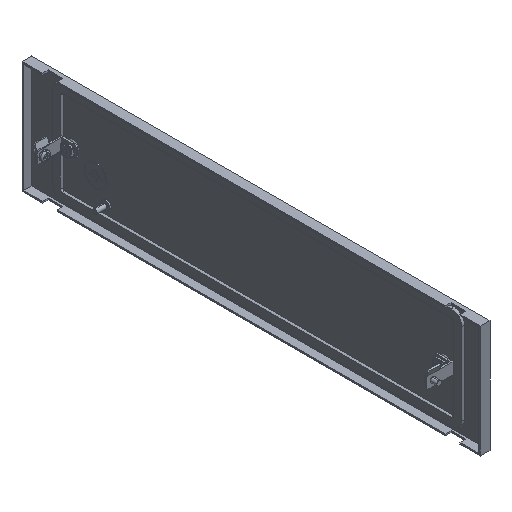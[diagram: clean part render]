
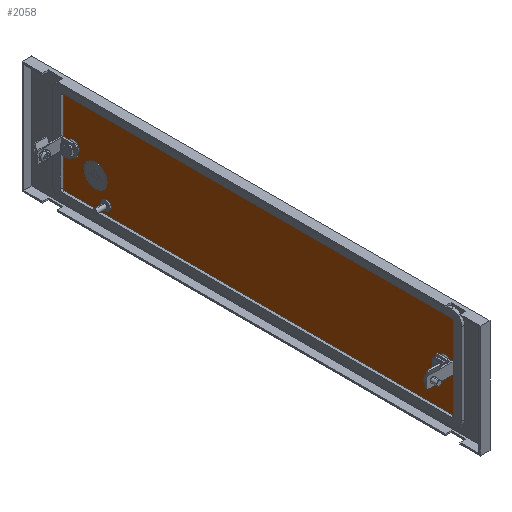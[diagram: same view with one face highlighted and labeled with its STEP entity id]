
A CAD part, isometric view. The second image highlights one B-rep face of the part: STEP entity #2058.
In plain terms, the highlighted planar face has unit normal (-1, 0, 0).
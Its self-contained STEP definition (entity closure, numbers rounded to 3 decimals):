
#13 = AXIS2_PLACEMENT_3D ( 'NONE', #1806, #5936, #9157 ) ;
#56 = CARTESIAN_POINT ( 'NONE',  ( -2., -241.5, 0. ) ) ;
#137 = AXIS2_PLACEMENT_3D ( 'NONE', #12432, #2986, #6118 ) ;
#251 = DIRECTION ( 'NONE',  ( 0., 0., -1. ) ) ;
#430 = CARTESIAN_POINT ( 'NONE',  ( -2., 241.5, 0. ) ) ;
#435 = ORIENTED_EDGE ( 'NONE', *, *, #9748, .T. ) ;
#461 = DIRECTION ( 'NONE',  ( -1., 0., 0. ) ) ;
#488 = CARTESIAN_POINT ( 'NONE',  ( -2., -252.5, 55. ) ) ;
#625 = EDGE_CURVE ( 'NONE', #7459, #2752, #6163, .T. ) ;
#649 = CARTESIAN_POINT ( 'NONE',  ( -2., 233.672, 0. ) ) ;
#733 = AXIS2_PLACEMENT_3D ( 'NONE', #430, #11133, #5029 ) ;
#775 = CIRCLE ( 'NONE', #7923, 15. ) ;
#888 = DIRECTION ( 'NONE',  ( 0., 0., -1. ) ) ;
#1198 = FACE_BOUND ( 'NONE', #7621, .T. ) ;
#1391 = ORIENTED_EDGE ( 'NONE', *, *, #11601, .F. ) ;
#1406 = VERTEX_POINT ( 'NONE', #3266 ) ;
#1494 = DIRECTION ( 'NONE',  ( 0., 0., 1. ) ) ;
#1524 = VERTEX_POINT ( 'NONE', #649 ) ;
#1686 = CIRCLE ( 'NONE', #8352, 15. ) ;
#1766 = CARTESIAN_POINT ( 'NONE',  ( -2., 197.5, -18. ) ) ;
#1806 = CARTESIAN_POINT ( 'NONE',  ( -2., 197.5, -43. ) ) ;
#1976 = CARTESIAN_POINT ( 'NONE',  ( -2., -254.5, 0. ) ) ;
#1979 = EDGE_CURVE ( 'NONE', #11806, #1524, #8856, .T. ) ;
#2055 = AXIS2_PLACEMENT_3D ( 'NONE', #8807, #12850, #12922 ) ;
#2058 = ADVANCED_FACE ( 'NONE', ( #7562, #7425, #11829, #1198, #2744 ), #8828, .F. ) ;
#2662 = VERTEX_POINT ( 'NONE', #6959 ) ;
#2744 = FACE_BOUND ( 'NONE', #10847, .T. ) ;
#2752 = VERTEX_POINT ( 'NONE', #3371 ) ;
#2875 = AXIS2_PLACEMENT_3D ( 'NONE', #12039, #13152, #1494 ) ;
#2986 = DIRECTION ( 'NONE',  ( 1., 0., 0. ) ) ;
#3221 = DIRECTION ( 'NONE',  ( -1., 0., 0. ) ) ;
#3266 = CARTESIAN_POINT ( 'NONE',  ( -2., -249.328, 0. ) ) ;
#3371 = CARTESIAN_POINT ( 'NONE',  ( -2., 254.5, -53. ) ) ;
#3555 = VERTEX_POINT ( 'NONE', #7536 ) ;
#3561 = EDGE_CURVE ( 'NONE', #12925, #1406, #6502, .T. ) ;
#3611 = ORIENTED_EDGE ( 'NONE', *, *, #6726, .F. ) ;
#3643 = CIRCLE ( 'NONE', #5399, 7.828 ) ;
#3678 = ORIENTED_EDGE ( 'NONE', *, *, #12488, .F. ) ;
#3724 = VERTEX_POINT ( 'NONE', #488 ) ;
#3782 = DIRECTION ( 'NONE',  ( -1., 0., 0. ) ) ;
#3892 = AXIS2_PLACEMENT_3D ( 'NONE', #12315, #3782, #10141 ) ;
#4032 = ORIENTED_EDGE ( 'NONE', *, *, #9959, .F. ) ;
#4199 = LINE ( 'NONE', #7419, #10533 ) ;
#4224 = ORIENTED_EDGE ( 'NONE', *, *, #13572, .T. ) ;
#4266 = EDGE_CURVE ( 'NONE', #3555, #9238, #11523, .T. ) ;
#4548 = CIRCLE ( 'NONE', #9682, 2. ) ;
#4644 = CARTESIAN_POINT ( 'NONE',  ( -2., 252.5, -55. ) ) ;
#4652 = ORIENTED_EDGE ( 'NONE', *, *, #625, .F. ) ;
#4695 = DIRECTION ( 'NONE',  ( 0., 0., 1. ) ) ;
#5029 = DIRECTION ( 'NONE',  ( 0., 0., -1. ) ) ;
#5136 = ORIENTED_EDGE ( 'NONE', *, *, #9916, .F. ) ;
#5148 = DIRECTION ( 'NONE',  ( 0., 1., 0. ) ) ;
#5215 = CIRCLE ( 'NONE', #3892, 2.65 ) ;
#5399 = AXIS2_PLACEMENT_3D ( 'NONE', #56, #3221, #5501 ) ;
#5419 = CARTESIAN_POINT ( 'NONE',  ( -2., -241.5, 0. ) ) ;
#5501 = DIRECTION ( 'NONE',  ( 0., 0., -1. ) ) ;
#5631 = CIRCLE ( 'NONE', #2055, 2. ) ;
#5782 = EDGE_LOOP ( 'NONE', ( #5136, #12669 ) ) ;
#5816 = CARTESIAN_POINT ( 'NONE',  ( -2., 252.5, 53. ) ) ;
#5868 = LINE ( 'NONE', #6930, #12760 ) ;
#5936 = DIRECTION ( 'NONE',  ( -1., 0., 0. ) ) ;
#6104 = CARTESIAN_POINT ( 'NONE',  ( -2., 197.5, -40.35 ) ) ;
#6118 = DIRECTION ( 'NONE',  ( 0., 0., -1. ) ) ;
#6163 = CIRCLE ( 'NONE', #137, 2. ) ;
#6200 = ORIENTED_EDGE ( 'NONE', *, *, #9395, .F. ) ;
#6293 = ORIENTED_EDGE ( 'NONE', *, *, #10478, .F. ) ;
#6437 = CARTESIAN_POINT ( 'NONE',  ( -2., 249.328, 0. ) ) ;
#6502 = CIRCLE ( 'NONE', #13446, 7.828 ) ;
#6532 = VERTEX_POINT ( 'NONE', #9788 ) ;
#6650 = DIRECTION ( 'NONE',  ( -1., 0., 0. ) ) ;
#6726 = EDGE_CURVE ( 'NONE', #7830, #8923, #5215, .T. ) ;
#6805 = CARTESIAN_POINT ( 'NONE',  ( -2., 197.5, -45.65 ) ) ;
#6820 = DIRECTION ( 'NONE',  ( 0., -1., 0. ) ) ;
#6834 = DIRECTION ( 'NONE',  ( 1., 0., 0. ) ) ;
#6930 = CARTESIAN_POINT ( 'NONE',  ( -2., -252.5, 55. ) ) ;
#6959 = CARTESIAN_POINT ( 'NONE',  ( -2., -252.5, -55. ) ) ;
#6971 = ORIENTED_EDGE ( 'NONE', *, *, #7249, .F. ) ;
#7005 = VECTOR ( 'NONE', #8992, 1000. ) ;
#7249 = EDGE_CURVE ( 'NONE', #13231, #6532, #1686, .T. ) ;
#7283 = DIRECTION ( 'NONE',  ( 0., 0., 1. ) ) ;
#7419 = CARTESIAN_POINT ( 'NONE',  ( -2., 254.5, -53. ) ) ;
#7425 = FACE_BOUND ( 'NONE', #5782, .T. ) ;
#7433 = EDGE_CURVE ( 'NONE', #8397, #3724, #4548, .T. ) ;
#7459 = VERTEX_POINT ( 'NONE', #4644 ) ;
#7536 = CARTESIAN_POINT ( 'NONE',  ( -2., 252.5, 55. ) ) ;
#7562 = FACE_OUTER_BOUND ( 'NONE', #10823, .T. ) ;
#7621 = EDGE_LOOP ( 'NONE', ( #3611, #3678 ) ) ;
#7632 = ORIENTED_EDGE ( 'NONE', *, *, #7650, .F. ) ;
#7650 = EDGE_CURVE ( 'NONE', #8397, #13253, #11561, .T. ) ;
#7651 = CIRCLE ( 'NONE', #733, 7.828 ) ;
#7804 = CARTESIAN_POINT ( 'NONE',  ( -2., -252.5, -55. ) ) ;
#7830 = VERTEX_POINT ( 'NONE', #6805 ) ;
#7878 = CARTESIAN_POINT ( 'NONE',  ( -2., 241.5, 0. ) ) ;
#7923 = AXIS2_PLACEMENT_3D ( 'NONE', #11930, #9827, #251 ) ;
#7953 = DIRECTION ( 'NONE',  ( 0., 0., -1. ) ) ;
#8215 = DIRECTION ( 'NONE',  ( 0., 0., -1. ) ) ;
#8352 = AXIS2_PLACEMENT_3D ( 'NONE', #11438, #13596, #888 ) ;
#8397 = VERTEX_POINT ( 'NONE', #10913 ) ;
#8807 = CARTESIAN_POINT ( 'NONE',  ( -2., -252.5, -53. ) ) ;
#8828 = PLANE ( 'NONE',  #2875 ) ;
#8856 = CIRCLE ( 'NONE', #10637, 7.828 ) ;
#8863 = DIRECTION ( 'NONE',  ( -1., 0., 0. ) ) ;
#8923 = VERTEX_POINT ( 'NONE', #6104 ) ;
#8992 = DIRECTION ( 'NONE',  ( 0., 1., 0. ) ) ;
#9157 = DIRECTION ( 'NONE',  ( 0., 0., -1. ) ) ;
#9238 = VERTEX_POINT ( 'NONE', #13441 ) ;
#9395 = EDGE_CURVE ( 'NONE', #2752, #9238, #4199, .T. ) ;
#9682 = AXIS2_PLACEMENT_3D ( 'NONE', #12210, #461, #6820 ) ;
#9748 = EDGE_CURVE ( 'NONE', #1524, #11806, #7651, .T. ) ;
#9788 = CARTESIAN_POINT ( 'NONE',  ( -2., 227.5, -18. ) ) ;
#9827 = DIRECTION ( 'NONE',  ( -1., 0., 0. ) ) ;
#9916 = EDGE_CURVE ( 'NONE', #1406, #12925, #3643, .T. ) ;
#9959 = EDGE_CURVE ( 'NONE', #13253, #2662, #5631, .T. ) ;
#9970 = LINE ( 'NONE', #7804, #7005 ) ;
#10141 = DIRECTION ( 'NONE',  ( 0., 0., -1. ) ) ;
#10478 = EDGE_CURVE ( 'NONE', #2662, #7459, #9970, .T. ) ;
#10512 = CIRCLE ( 'NONE', #13, 2.65 ) ;
#10533 = VECTOR ( 'NONE', #7283, 1000. ) ;
#10637 = AXIS2_PLACEMENT_3D ( 'NONE', #7878, #6834, #7953 ) ;
#10823 = EDGE_LOOP ( 'NONE', ( #7632, #12701, #4224, #12162, #6200, #4652, #6293, #4032 ) ) ;
#10847 = EDGE_LOOP ( 'NONE', ( #435, #11931 ) ) ;
#10854 = AXIS2_PLACEMENT_3D ( 'NONE', #5816, #6650, #4695 ) ;
#10913 = CARTESIAN_POINT ( 'NONE',  ( -2., -254.5, 53. ) ) ;
#10962 = DIRECTION ( 'NONE',  ( 0., 0., -1. ) ) ;
#11133 = DIRECTION ( 'NONE',  ( 1., 0., 0. ) ) ;
#11341 = CARTESIAN_POINT ( 'NONE',  ( -2., -254.5, -53. ) ) ;
#11438 = CARTESIAN_POINT ( 'NONE',  ( -2., 212.5, -18. ) ) ;
#11523 = CIRCLE ( 'NONE', #10854, 2. ) ;
#11561 = LINE ( 'NONE', #1976, #13686 ) ;
#11601 = EDGE_CURVE ( 'NONE', #6532, #13231, #775, .T. ) ;
#11806 = VERTEX_POINT ( 'NONE', #6437 ) ;
#11829 = FACE_BOUND ( 'NONE', #13330, .T. ) ;
#11930 = CARTESIAN_POINT ( 'NONE',  ( -2., 212.5, -18. ) ) ;
#11931 = ORIENTED_EDGE ( 'NONE', *, *, #1979, .T. ) ;
#12039 = CARTESIAN_POINT ( 'NONE',  ( -2., 0., 0. ) ) ;
#12162 = ORIENTED_EDGE ( 'NONE', *, *, #4266, .T. ) ;
#12210 = CARTESIAN_POINT ( 'NONE',  ( -2., -252.5, 53. ) ) ;
#12315 = CARTESIAN_POINT ( 'NONE',  ( -2., 197.5, -43. ) ) ;
#12432 = CARTESIAN_POINT ( 'NONE',  ( -2., 252.5, -53. ) ) ;
#12488 = EDGE_CURVE ( 'NONE', #8923, #7830, #10512, .T. ) ;
#12669 = ORIENTED_EDGE ( 'NONE', *, *, #3561, .F. ) ;
#12701 = ORIENTED_EDGE ( 'NONE', *, *, #7433, .T. ) ;
#12760 = VECTOR ( 'NONE', #5148, 1000. ) ;
#12850 = DIRECTION ( 'NONE',  ( 1., 0., 0. ) ) ;
#12922 = DIRECTION ( 'NONE',  ( 0., -1., 0. ) ) ;
#12925 = VERTEX_POINT ( 'NONE', #13787 ) ;
#13152 = DIRECTION ( 'NONE',  ( 1., 0., 0. ) ) ;
#13231 = VERTEX_POINT ( 'NONE', #1766 ) ;
#13253 = VERTEX_POINT ( 'NONE', #11341 ) ;
#13330 = EDGE_LOOP ( 'NONE', ( #6971, #1391 ) ) ;
#13441 = CARTESIAN_POINT ( 'NONE',  ( -2., 254.5, 53. ) ) ;
#13446 = AXIS2_PLACEMENT_3D ( 'NONE', #5419, #8863, #10962 ) ;
#13572 = EDGE_CURVE ( 'NONE', #3724, #3555, #5868, .T. ) ;
#13596 = DIRECTION ( 'NONE',  ( -1., 0., 0. ) ) ;
#13686 = VECTOR ( 'NONE', #8215, 1000. ) ;
#13787 = CARTESIAN_POINT ( 'NONE',  ( -2., -233.672, 0. ) ) ;
